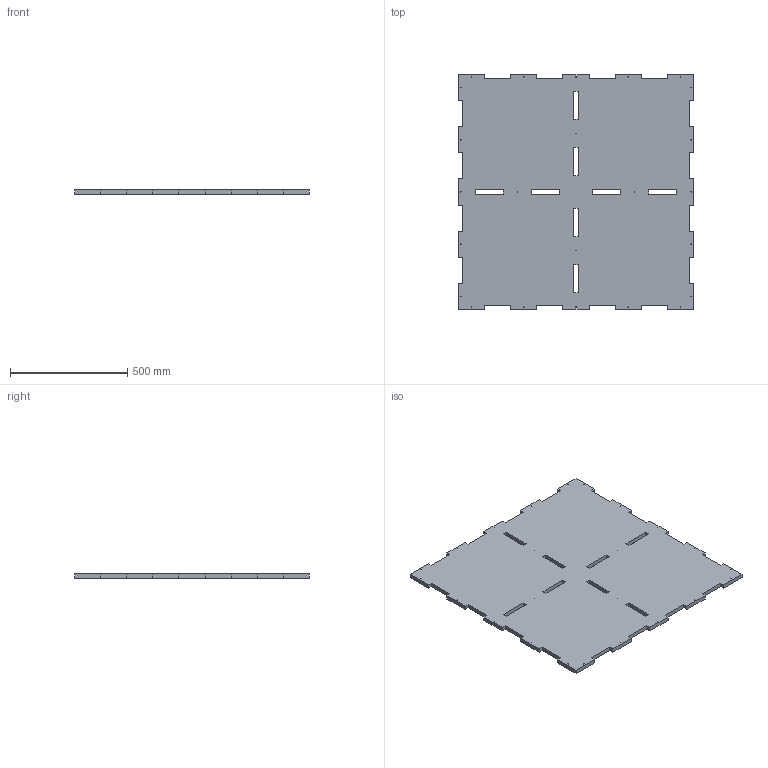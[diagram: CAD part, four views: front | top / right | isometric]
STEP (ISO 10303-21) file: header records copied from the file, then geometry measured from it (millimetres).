
FILE_DESCRIPTION(('Open CASCADE Model'),'2;1');
FILE_NAME('Open CASCADE Shape Model','2026-09-28T10:14:31',('Author'),( 'Open CASCADE'),'Open CASCADE STEP processor 7.9','Open CASCADE 7.9' ,'Unknown');
FILE_SCHEMA(('AUTOMOTIVE_DESIGN { 1 0 10303 214 1 1 1 1 }'));
Length unit declared in the file: millimetre
Products named in the file (1): Open CASCADE STEP translator 7.9 54
Bounding box: 1000 x 1000 x 18 mm (x, y, z)
Volume: 17106859.3 mm3; surface area: 2026382.3 mm2
Topology: 1 solids, 1 shells, 126 faces, 372 edges, 248 vertices
Faces by surface type: plane 102, cylinder 24
Full cylindrical faces by diameter (mm): 2.5 x24
Entity records: 9138 total; most frequent: CARTESIAN_POINT 1491, DIRECTION 1418, LINE 1020, VECTOR 1020, ORIENTED_EDGE 744, PCURVE 744, DEFINITIONAL_REPRESENTATION 744, EDGE_CURVE 372
